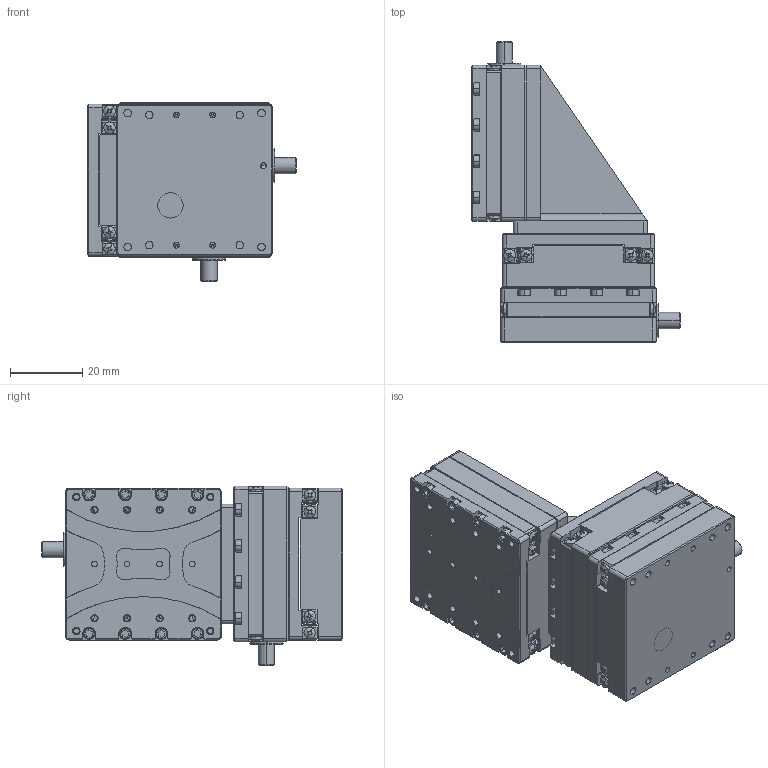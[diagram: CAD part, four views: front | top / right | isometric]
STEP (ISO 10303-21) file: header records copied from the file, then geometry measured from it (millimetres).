
FILE_DESCRIPTION (( 'STEP AP214' ), '1' );
FILE_NAME ('N56.XYZ20E-B1闭环三维直线压电马达3D图（25.08.01）.STEP', '2026-05-25T07:53:14', ( '微软用户' ), ( '微软中国' ), 'SwSTEP 2.0', 'SolidWorks 2016', '' );
FILE_SCHEMA (( 'AUTOMOTIVE_DESIGN' ));
Length unit declared in the file: millimetre
Products named in the file (1): N56.XYZ20E-B1闭环三维直线压电马达3D图（25.08.01）
Bounding box: 57.6 x 83.1 x 49.6 mm (x, y, z)
Volume: 71769.2 mm3; surface area: 60107.8 mm2
Topology: 154 solids, 154 shells, 3582 faces, 9001 edges, 5848 vertices
Faces by surface type: plane 1757, cylinder 1489, cone 216, bspline 120
Entity records: 150946 total; most frequent: CARTESIAN_POINT 22854, DIRECTION 18400, ORIENTED_EDGE 17738, EDGE_CURVE 8869, AXIS2_PLACEMENT_3D 6808, VERTEX_POINT 5848, LINE 4784, VECTOR 4784
